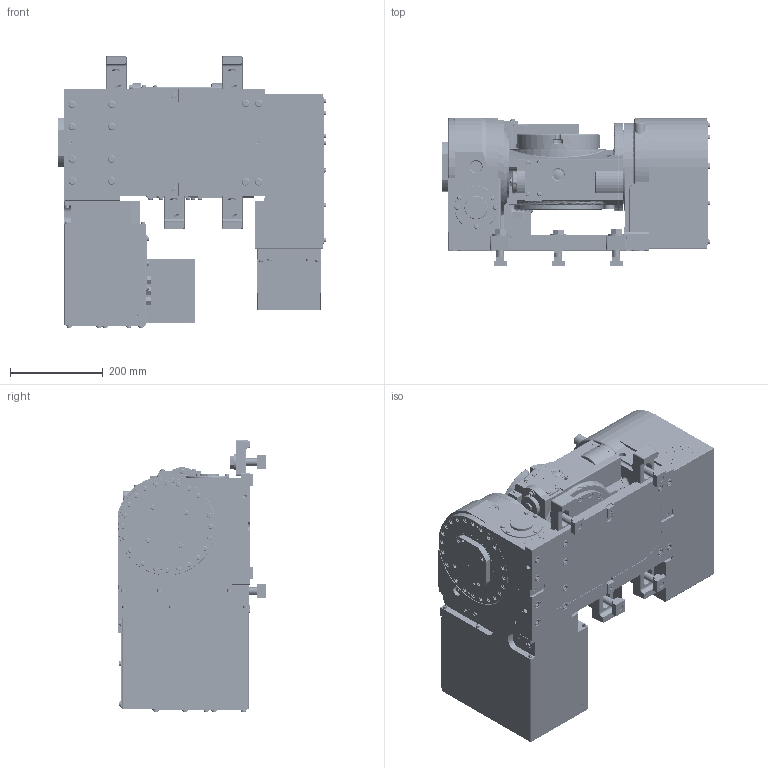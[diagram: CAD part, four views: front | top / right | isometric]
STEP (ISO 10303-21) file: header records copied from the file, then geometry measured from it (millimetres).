
FILE_DESCRIPTION (( 'STEP AP214' ), '1' );
FILE_NAME ('【掲載用】TT182付加軸.STEP', '2019-10-10T07:06:00', ( '' ), ( '' ), 'SwSTEP 2.0', 'SolidWorks 2017', '' );
FILE_SCHEMA (( 'AUTOMOTIVE_DESIGN' ));
Length unit declared in the file: millimetre
Products named in the file (18): BODY(61E1113036)TT182B02; BASE_TT182BF; スペーサ（61E4521020）MR200RAJ05; ハイカンシャフトPAD(61E3857561)TT182B5-0_回転モデル; キタガワシール; SMC KQ2E06-02; コネクタカバー（61E3639910）; コネクタプレート（61E4465853）TB200A4F24; コネクタプレート(61E4571940); モータケース(61E281100)TT182BF-05; モータケース(61E252972)TT182B5-0; ケイシャモータクドウASSY(61E3817573)TT182B00_回転モデル; パッキングプレートPAD(61E4544200)TT182B00_回転モデル; ササエPAD(61E3817482)TT182B00_回転モデル; ケイシャホンタイASSY(61E2668341)TT182B02_回転モデル; 【掲載用】TT182付加軸; CLAMPING PARTS（61E424758）; TABLE(61E8445480)TT182B02
Assembly tree (24 placements, depth 3):
  【掲載用】TT182付加軸
    BASE_TT182BF
      ケイシャホンタイASSY(61E2668341)TT182B02_回転モデル
      ササエPAD(61E3817482)TT182B00_回転モデル
      パッキングプレートPAD(61E4544200)TT182B00_回転モデル
      ケイシャモータクドウASSY(61E3817573)TT182B00_回転モデル
      モータケース(61E252972)TT182B5-0
      モータケース(61E281100)TT182BF-05
      コネクタプレート(61E4571940)
      コネクタプレート（61E4465853）TB200A4F24
      コネクタカバー（61E3639910）  x2
      SMC KQ2E06-02  x3
      キタガワシール
      ハイカンシャフトPAD(61E3857561)TT182B5-0_回転モデル
      スペーサ（61E4521020）MR200RAJ05  x2
    BODY(61E1113036)TT182B02
    TABLE(61E8445480)TT182B02
    CLAMPING PARTS（61E424758）  x4
Bounding box: 576.8 x 318 x 586.8 mm (x, y, z)
Volume: 44459147.6 mm3; surface area: 2425346.1 mm2
Topology: 29 solids, 29 shells, 5654 faces, 14004 edges, 9019 vertices
Faces by surface type: plane 3524, cylinder 1384, cone 472, torus 199, bspline 71, sphere 4
Entity records: 192591 total; most frequent: CARTESIAN_POINT 31226, DIRECTION 27105, ORIENTED_EDGE 26548, EDGE_CURVE 13274, VECTOR 9577, LINE 9577, AXIS2_PLACEMENT_3D 8764, VERTEX_POINT 8601
